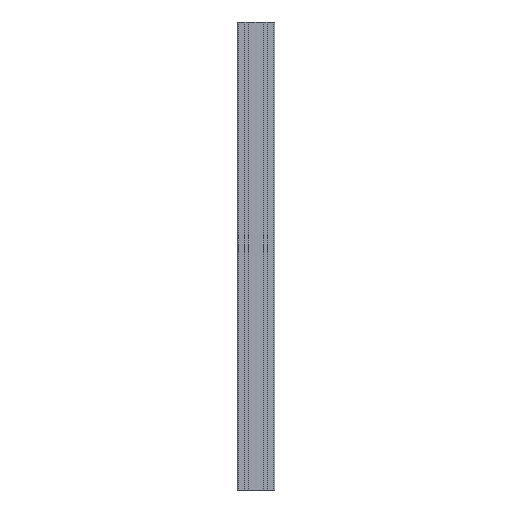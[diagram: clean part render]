
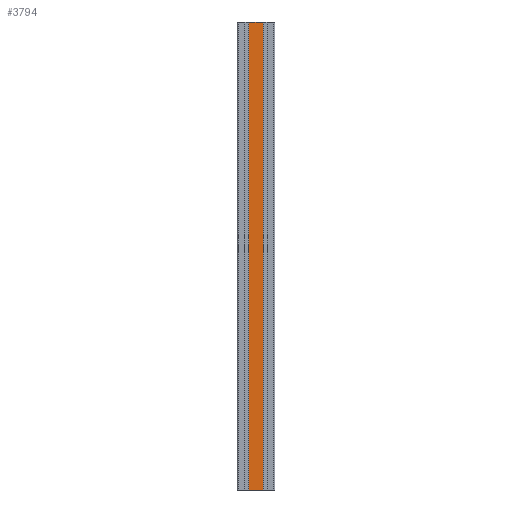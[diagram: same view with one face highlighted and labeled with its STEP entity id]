
A CAD part, front view. The second image highlights one B-rep face of the part: STEP entity #3794.
In plain terms, the highlighted planar face has unit normal (0, -1, 0).
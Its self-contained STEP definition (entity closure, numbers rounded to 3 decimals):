
#394=FACE_OUTER_BOUND('',#591,.T.);
#591=EDGE_LOOP('',(#3147,#3148,#3149,#3150));
#732=LINE('',#5563,#1144);
#884=LINE('',#5978,#1296);
#976=LINE('',#6233,#1388);
#977=LINE('',#6234,#1389);
#1144=VECTOR('',#4464,10.);
#1296=VECTOR('',#4866,10.);
#1388=VECTOR('',#5084,10.);
#1389=VECTOR('',#5085,10.);
#1561=VERTEX_POINT('',#5561);
#1562=VERTEX_POINT('',#5562);
#1700=VERTEX_POINT('',#5977);
#1800=VERTEX_POINT('',#6232);
#1976=EDGE_CURVE('',#1561,#1562,#732,.T.);
#2184=EDGE_CURVE('',#1700,#1561,#884,.T.);
#2312=EDGE_CURVE('',#1800,#1562,#976,.T.);
#2313=EDGE_CURVE('',#1700,#1800,#977,.T.);
#3147=ORIENTED_EDGE('',*,*,#2312,.F.);
#3148=ORIENTED_EDGE('',*,*,#2313,.F.);
#3149=ORIENTED_EDGE('',*,*,#2184,.T.);
#3150=ORIENTED_EDGE('',*,*,#1976,.T.);
#3620=PLANE('',#4140);
#3794=ADVANCED_FACE('',(#394),#3620,.T.);
#4140=AXIS2_PLACEMENT_3D('',#6231,#5082,#5083);
#4464=DIRECTION('',(0.,0.,1.));
#4866=DIRECTION('',(1.,0.,0.));
#5082=DIRECTION('center_axis',(0.,-1.,0.));
#5083=DIRECTION('ref_axis',(1.,0.,0.));
#5084=DIRECTION('',(1.,0.,0.));
#5085=DIRECTION('',(0.,0.,1.));
#5561=CARTESIAN_POINT('',(15.1,-20.,-500.));
#5562=CARTESIAN_POINT('',(15.1,-20.,500.));
#5563=CARTESIAN_POINT('',(15.1,-20.,0.));
#5977=CARTESIAN_POINT('',(-15.1,-20.,-500.));
#5978=CARTESIAN_POINT('',(15.1,-20.,-500.));
#6231=CARTESIAN_POINT('Origin',(-15.1,-20.,0.));
#6232=CARTESIAN_POINT('',(-15.1,-20.,500.));
#6233=CARTESIAN_POINT('',(-15.1,-20.,500.));
#6234=CARTESIAN_POINT('',(-15.1,-20.,0.));
